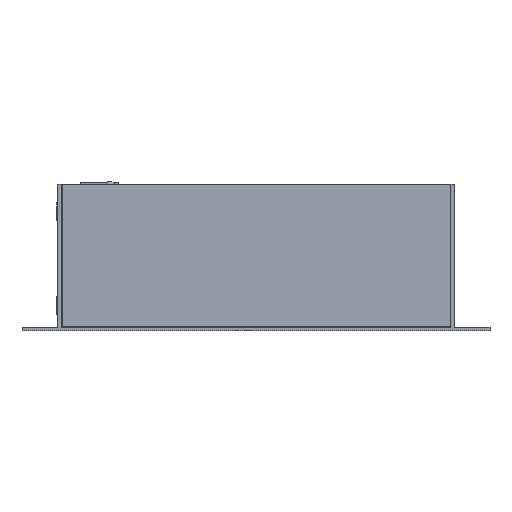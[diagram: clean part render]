
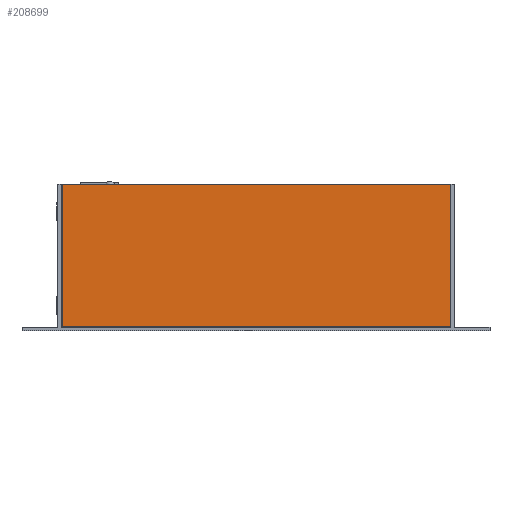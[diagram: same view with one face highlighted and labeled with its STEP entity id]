
A CAD part, front view. The second image highlights one B-rep face of the part: STEP entity #208699.
In plain terms, the highlighted planar face has unit normal (0, -1, 0).
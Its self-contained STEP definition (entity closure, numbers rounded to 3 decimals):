
#191928 = VERTEX_POINT('',#191929);
#191929 = CARTESIAN_POINT('',(120.005,0.,1.));
#191971 = PLANE('',#191972);
#191972 = AXIS2_PLACEMENT_3D('',#191973,#191974,#191975);
#191973 = CARTESIAN_POINT('',(0.,0.,1.));
#191974 = DIRECTION('',(0.,1.,0.));
#191975 = DIRECTION('',(0.,0.,1.));
#192588 = PLANE('',#192589);
#192589 = AXIS2_PLACEMENT_3D('',#192590,#192591,#192592);
#192590 = CARTESIAN_POINT('',(0.,0.,1.));
#192591 = DIRECTION('',(1.,0.,0.));
#192592 = DIRECTION('',(0.,0.,1.));
#192829 = PLANE('',#192830);
#192830 = AXIS2_PLACEMENT_3D('',#192831,#192832,#192833);
#192831 = CARTESIAN_POINT('',(0.,0.,45.));
#192832 = DIRECTION('',(0.,0.,1.));
#192833 = DIRECTION('',(1.,0.,0.));
#199597 = EDGE_CURVE('',#191928,#199598,#199600,.T.);
#199598 = VERTEX_POINT('',#199599);
#199599 = CARTESIAN_POINT('',(120.005,0.,45.));
#199600 = SURFACE_CURVE('',#199601,(#199605,#199612),.PCURVE_S1.);
#199601 = LINE('',#199602,#199603);
#199602 = CARTESIAN_POINT('',(120.005,0.,0.8));
#199603 = VECTOR('',#199604,1.);
#199604 = DIRECTION('',(0.,0.,1.));
#199605 = PCURVE('',#191971,#199606);
#199606 = DEFINITIONAL_REPRESENTATION('',(#199607),#199611);
#199607 = LINE('',#199608,#199609);
#199608 = CARTESIAN_POINT('',(-0.2,120.005));
#199609 = VECTOR('',#199610,1.);
#199610 = DIRECTION('',(1.,0.));
#199611 = ( GEOMETRIC_REPRESENTATION_CONTEXT(2) 
PARAMETRIC_REPRESENTATION_CONTEXT() REPRESENTATION_CONTEXT('2D SPACE',''
  ) );
#199612 = PCURVE('',#199613,#199618);
#199613 = PLANE('',#199614);
#199614 = AXIS2_PLACEMENT_3D('',#199615,#199616,#199617);
#199615 = CARTESIAN_POINT('',(0.,0.,1.));
#199616 = DIRECTION('',(0.,1.,0.));
#199617 = DIRECTION('',(0.,0.,1.));
#199618 = DEFINITIONAL_REPRESENTATION('',(#199619),#199623);
#199619 = LINE('',#199620,#199621);
#199620 = CARTESIAN_POINT('',(-0.2,120.005));
#199621 = VECTOR('',#199622,1.);
#199622 = DIRECTION('',(1.,0.));
#199623 = ( GEOMETRIC_REPRESENTATION_CONTEXT(2) 
PARAMETRIC_REPRESENTATION_CONTEXT() REPRESENTATION_CONTEXT('2D SPACE',''
  ) );
#199765 = PLANE('',#199766);
#199766 = AXIS2_PLACEMENT_3D('',#199767,#199768,#199769);
#199767 = CARTESIAN_POINT('',(0.,0.,1.));
#199768 = DIRECTION('',(0.,0.,1.));
#199769 = DIRECTION('',(1.,0.,0.));
#203250 = VERTEX_POINT('',#203251);
#203251 = CARTESIAN_POINT('',(0.,0.,45.));
#203272 = EDGE_CURVE('',#203273,#203250,#203275,.T.);
#203273 = VERTEX_POINT('',#203274);
#203274 = CARTESIAN_POINT('',(0.,0.,1.));
#203275 = SURFACE_CURVE('',#203276,(#203280,#203287),.PCURVE_S1.);
#203276 = LINE('',#203277,#203278);
#203277 = CARTESIAN_POINT('',(0.,0.,1.));
#203278 = VECTOR('',#203279,1.);
#203279 = DIRECTION('',(0.,0.,1.));
#203280 = PCURVE('',#192588,#203281);
#203281 = DEFINITIONAL_REPRESENTATION('',(#203282),#203286);
#203282 = LINE('',#203283,#203284);
#203283 = CARTESIAN_POINT('',(0.,0.));
#203284 = VECTOR('',#203285,1.);
#203285 = DIRECTION('',(1.,0.));
#203286 = ( GEOMETRIC_REPRESENTATION_CONTEXT(2) 
PARAMETRIC_REPRESENTATION_CONTEXT() REPRESENTATION_CONTEXT('2D SPACE',''
  ) );
#203287 = PCURVE('',#199613,#203288);
#203288 = DEFINITIONAL_REPRESENTATION('',(#203289),#203293);
#203289 = LINE('',#203290,#203291);
#203290 = CARTESIAN_POINT('',(0.,0.));
#203291 = VECTOR('',#203292,1.);
#203292 = DIRECTION('',(1.,0.));
#203293 = ( GEOMETRIC_REPRESENTATION_CONTEXT(2) 
PARAMETRIC_REPRESENTATION_CONTEXT() REPRESENTATION_CONTEXT('2D SPACE',''
  ) );
#203608 = EDGE_CURVE('',#203250,#199598,#203609,.T.);
#203609 = SURFACE_CURVE('',#203610,(#203614,#203621),.PCURVE_S1.);
#203610 = LINE('',#203611,#203612);
#203611 = CARTESIAN_POINT('',(0.,0.,45.));
#203612 = VECTOR('',#203613,1.);
#203613 = DIRECTION('',(1.,0.,0.));
#203614 = PCURVE('',#192829,#203615);
#203615 = DEFINITIONAL_REPRESENTATION('',(#203616),#203620);
#203616 = LINE('',#203617,#203618);
#203617 = CARTESIAN_POINT('',(0.,0.));
#203618 = VECTOR('',#203619,1.);
#203619 = DIRECTION('',(1.,0.));
#203620 = ( GEOMETRIC_REPRESENTATION_CONTEXT(2) 
PARAMETRIC_REPRESENTATION_CONTEXT() REPRESENTATION_CONTEXT('2D SPACE',''
  ) );
#203621 = PCURVE('',#199613,#203622);
#203622 = DEFINITIONAL_REPRESENTATION('',(#203623),#203627);
#203623 = LINE('',#203624,#203625);
#203624 = CARTESIAN_POINT('',(44.,0.));
#203625 = VECTOR('',#203626,1.);
#203626 = DIRECTION('',(0.,1.));
#203627 = ( GEOMETRIC_REPRESENTATION_CONTEXT(2) 
PARAMETRIC_REPRESENTATION_CONTEXT() REPRESENTATION_CONTEXT('2D SPACE',''
  ) );
#208699 = ADVANCED_FACE('',(#208700),#199613,.F.);
#208700 = FACE_BOUND('',#208701,.F.);
#208701 = EDGE_LOOP('',(#208702,#208723,#208724,#208725));
#208702 = ORIENTED_EDGE('',*,*,#208703,.F.);
#208703 = EDGE_CURVE('',#203273,#191928,#208704,.T.);
#208704 = SURFACE_CURVE('',#208705,(#208709,#208716),.PCURVE_S1.);
#208705 = LINE('',#208706,#208707);
#208706 = CARTESIAN_POINT('',(0.,0.,1.));
#208707 = VECTOR('',#208708,1.);
#208708 = DIRECTION('',(1.,0.,0.));
#208709 = PCURVE('',#199613,#208710);
#208710 = DEFINITIONAL_REPRESENTATION('',(#208711),#208715);
#208711 = LINE('',#208712,#208713);
#208712 = CARTESIAN_POINT('',(0.,0.));
#208713 = VECTOR('',#208714,1.);
#208714 = DIRECTION('',(0.,1.));
#208715 = ( GEOMETRIC_REPRESENTATION_CONTEXT(2) 
PARAMETRIC_REPRESENTATION_CONTEXT() REPRESENTATION_CONTEXT('2D SPACE',''
  ) );
#208716 = PCURVE('',#199765,#208717);
#208717 = DEFINITIONAL_REPRESENTATION('',(#208718),#208722);
#208718 = LINE('',#208719,#208720);
#208719 = CARTESIAN_POINT('',(0.,0.));
#208720 = VECTOR('',#208721,1.);
#208721 = DIRECTION('',(1.,0.));
#208722 = ( GEOMETRIC_REPRESENTATION_CONTEXT(2) 
PARAMETRIC_REPRESENTATION_CONTEXT() REPRESENTATION_CONTEXT('2D SPACE',''
  ) );
#208723 = ORIENTED_EDGE('',*,*,#203272,.T.);
#208724 = ORIENTED_EDGE('',*,*,#203608,.T.);
#208725 = ORIENTED_EDGE('',*,*,#199597,.F.);
